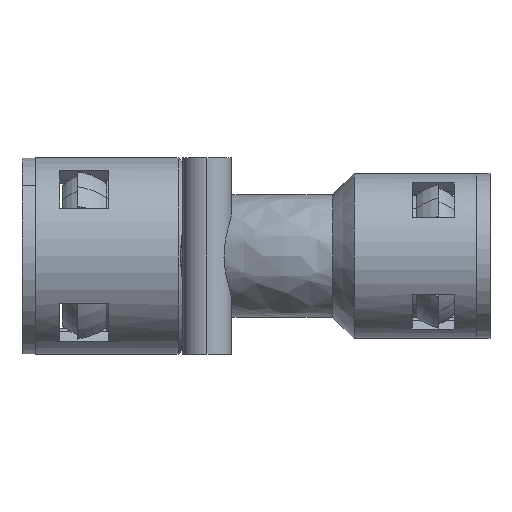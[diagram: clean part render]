
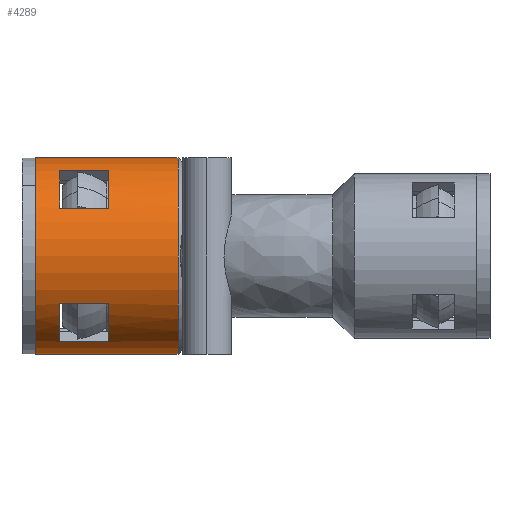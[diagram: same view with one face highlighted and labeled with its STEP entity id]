
A CAD part, left-side view. The second image highlights one B-rep face of the part: STEP entity #4289.
In plain terms, the highlighted cylindrical face has radius 22 mm (diameter 44 mm), a partial arc.
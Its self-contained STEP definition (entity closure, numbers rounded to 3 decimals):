
#4272 = EDGE_LOOP ( 'NONE', ( #4290, #4428, #4467, #4556 ) ) ;
#4274 = EDGE_CURVE ( 'NONE', #4462, #4411, #10695, .T. ) ;
#4289 = ADVANCED_FACE ( 'NONE', ( #10793, #10715, #10842 ), #10753, .T. ) ;
#4290 = ORIENTED_EDGE ( 'NONE', *, *, #4398, .F. ) ;
#4303 = VERTEX_POINT ( 'NONE', #10026 ) ;
#4377 = EDGE_CURVE ( 'NONE', #4303, #4416, #9870, .T. ) ;
#4398 = EDGE_CURVE ( 'NONE', #4303, #4462, #10218, .T. ) ;
#4399 = EDGE_CURVE ( 'NONE', #4573, #4522, #10177, .T. ) ;
#4402 = EDGE_CURVE ( 'NONE', #4524, #4614, #10272, .T. ) ;
#4411 = VERTEX_POINT ( 'NONE', #10185 ) ;
#4416 = VERTEX_POINT ( 'NONE', #10337 ) ;
#4428 = ORIENTED_EDGE ( 'NONE', *, *, #4377, .T. ) ;
#4462 = VERTEX_POINT ( 'NONE', #10396 ) ;
#4463 = EDGE_CURVE ( 'NONE', #4416, #4411, #10300, .T. ) ;
#4467 = ORIENTED_EDGE ( 'NONE', *, *, #4463, .T. ) ;
#4475 = ORIENTED_EDGE ( 'NONE', *, *, #4570, .F. ) ;
#4476 = EDGE_CURVE ( 'NONE', #4523, #4588, #10559, .T. ) ;
#4477 = EDGE_CURVE ( 'NONE', #4559, #4524, #10508, .T. ) ;
#4483 = ORIENTED_EDGE ( 'NONE', *, *, #4402, .F. ) ;
#4484 = ORIENTED_EDGE ( 'NONE', *, *, #4542, .F. ) ;
#4505 = ORIENTED_EDGE ( 'NONE', *, *, #4536, .F. ) ;
#4513 = EDGE_CURVE ( 'NONE', #4588, #4573, #10499, .T. ) ;
#4514 = ORIENTED_EDGE ( 'NONE', *, *, #4399, .F. ) ;
#4522 = VERTEX_POINT ( 'NONE', #10529 ) ;
#4523 = VERTEX_POINT ( 'NONE', #10556 ) ;
#4524 = VERTEX_POINT ( 'NONE', #10531 ) ;
#4531 = ORIENTED_EDGE ( 'NONE', *, *, #4513, .F. ) ;
#4536 = EDGE_CURVE ( 'NONE', #4598, #4559, #10292, .T. ) ;
#4542 = EDGE_CURVE ( 'NONE', #4614, #4598, #10308, .T. ) ;
#4556 = ORIENTED_EDGE ( 'NONE', *, *, #4274, .F. ) ;
#4559 = VERTEX_POINT ( 'NONE', #10580 ) ;
#4570 = EDGE_CURVE ( 'NONE', #4522, #4523, #10431, .T. ) ;
#4573 = VERTEX_POINT ( 'NONE', #11012 ) ;
#4588 = VERTEX_POINT ( 'NONE', #10991 ) ;
#4590 = ORIENTED_EDGE ( 'NONE', *, *, #4477, .F. ) ;
#4598 = VERTEX_POINT ( 'NONE', #11082 ) ;
#4599 = ORIENTED_EDGE ( 'NONE', *, *, #4476, .F. ) ;
#4608 = EDGE_LOOP ( 'NONE', ( #4590, #4505, #4484, #4483 ) ) ;
#4609 = EDGE_LOOP ( 'NONE', ( #4475, #4514, #4531, #4599 ) ) ;
#4614 = VERTEX_POINT ( 'NONE', #10998 ) ;
#9300 = DIRECTION ( 'NONE',  ( 0., 0., -1. ) ) ;
#9856 = AXIS2_PLACEMENT_3D ( 'NONE', #9928, #9927, #9300 ) ;
#9870 = CIRCLE ( 'NONE', #9856, 22. ) ;
#9927 = DIRECTION ( 'NONE',  ( 0., -1., 0. ) ) ;
#9928 = CARTESIAN_POINT ( 'NONE',  ( 0., 99., 0. ) ) ;
#10026 = CARTESIAN_POINT ( 'NONE',  ( 0., 99., 22. ) ) ;
#10173 = DIRECTION ( 'NONE',  ( 0., 0., -1. ) ) ;
#10174 = DIRECTION ( 'NONE',  ( 0., 1., 0. ) ) ;
#10177 = CIRCLE ( 'NONE', #10267, 22. ) ;
#10178 = CARTESIAN_POINT ( 'NONE',  ( 0., 82.5, 0. ) ) ;
#10185 = CARTESIAN_POINT ( 'NONE',  ( 0., 67., -22. ) ) ;
#10209 = DIRECTION ( 'NONE',  ( 0., 0., -1. ) ) ;
#10217 = CARTESIAN_POINT ( 'NONE',  ( 0., 0., 22. ) ) ;
#10218 = LINE ( 'NONE', #10217, #10264 ) ;
#10258 = AXIS2_PLACEMENT_3D ( 'NONE', #10178, #10174, #10173 ) ;
#10262 = CARTESIAN_POINT ( 'NONE',  ( 0., 82.5, 0. ) ) ;
#10263 = DIRECTION ( 'NONE',  ( 0., -1., 0. ) ) ;
#10264 = VECTOR ( 'NONE', #10263, 1000. ) ;
#10267 = AXIS2_PLACEMENT_3D ( 'NONE', #10262, #10270, #10209 ) ;
#10270 = DIRECTION ( 'NONE',  ( 0., 1., 0. ) ) ;
#10272 = CIRCLE ( 'NONE', #10258, 22. ) ;
#10289 = CARTESIAN_POINT ( 'NONE',  ( 0., 0., -22. ) ) ;
#10290 = VECTOR ( 'NONE', #10291, 1000. ) ;
#10291 = DIRECTION ( 'NONE',  ( 0., -1., 0. ) ) ;
#10292 = CIRCLE ( 'NONE', #10295, 22. ) ;
#10295 = AXIS2_PLACEMENT_3D ( 'NONE', #10297, #10299, #10301 ) ;
#10297 = CARTESIAN_POINT ( 'NONE',  ( 0., 93.5, 0. ) ) ;
#10298 = DIRECTION ( 'NONE',  ( 0., 1., 0. ) ) ;
#10299 = DIRECTION ( 'NONE',  ( 0., -1., 0. ) ) ;
#10300 = LINE ( 'NONE', #10289, #10290 ) ;
#10301 = DIRECTION ( 'NONE',  ( 0., 0., 1. ) ) ;
#10305 = CARTESIAN_POINT ( 'NONE',  ( -10.724, 0., 19.209 ) ) ;
#10308 = LINE ( 'NONE', #10305, #10309 ) ;
#10309 = VECTOR ( 'NONE', #10298, 1000. ) ;
#10337 = CARTESIAN_POINT ( 'NONE',  ( 0., 99., -22. ) ) ;
#10396 = CARTESIAN_POINT ( 'NONE',  ( 0., 67., 22. ) ) ;
#10431 = LINE ( 'NONE', #10455, #10454 ) ;
#10453 = DIRECTION ( 'NONE',  ( 0., 1., 0. ) ) ;
#10454 = VECTOR ( 'NONE', #10453, 1000. ) ;
#10455 = CARTESIAN_POINT ( 'NONE',  ( -19.209, 0., -10.724 ) ) ;
#10498 = DIRECTION ( 'NONE',  ( 0., -1., 0. ) ) ;
#10499 = LINE ( 'NONE', #10519, #10501 ) ;
#10501 = VECTOR ( 'NONE', #10570, 1000. ) ;
#10508 = LINE ( 'NONE', #10564, #10561 ) ;
#10519 = CARTESIAN_POINT ( 'NONE',  ( -10.724, 0., -19.209 ) ) ;
#10521 = CARTESIAN_POINT ( 'NONE',  ( 0., 93.5, 0. ) ) ;
#10526 = DIRECTION ( 'NONE',  ( 0., -1., 0. ) ) ;
#10529 = CARTESIAN_POINT ( 'NONE',  ( -19.209, 82.5, -10.724 ) ) ;
#10531 = CARTESIAN_POINT ( 'NONE',  ( -19.209, 82.5, 10.724 ) ) ;
#10556 = CARTESIAN_POINT ( 'NONE',  ( -19.209, 93.5, -10.724 ) ) ;
#10559 = CIRCLE ( 'NONE', #10571, 22. ) ;
#10561 = VECTOR ( 'NONE', #10526, 1000. ) ;
#10562 = DIRECTION ( 'NONE',  ( 0., 0., 1. ) ) ;
#10564 = CARTESIAN_POINT ( 'NONE',  ( -19.209, 0., 10.724 ) ) ;
#10570 = DIRECTION ( 'NONE',  ( 0., -1., 0. ) ) ;
#10571 = AXIS2_PLACEMENT_3D ( 'NONE', #10521, #10498, #10562 ) ;
#10580 = CARTESIAN_POINT ( 'NONE',  ( -19.209, 93.5, 10.724 ) ) ;
#10695 = CIRCLE ( 'NONE', #10717, 22. ) ;
#10715 = FACE_BOUND ( 'NONE', #4609, .T. ) ;
#10717 = AXIS2_PLACEMENT_3D ( 'NONE', #10862, #10861, #10860 ) ;
#10753 = CYLINDRICAL_SURFACE ( 'NONE', #10794, 22. ) ;
#10759 = DIRECTION ( 'NONE',  ( 0., -1., 0. ) ) ;
#10773 = CARTESIAN_POINT ( 'NONE',  ( 0., 0., 0. ) ) ;
#10793 = FACE_OUTER_BOUND ( 'NONE', #4272, .T. ) ;
#10794 = AXIS2_PLACEMENT_3D ( 'NONE', #10773, #10759, #10804 ) ;
#10804 = DIRECTION ( 'NONE',  ( 0., 0., -1. ) ) ;
#10842 = FACE_BOUND ( 'NONE', #4608, .T. ) ;
#10860 = DIRECTION ( 'NONE',  ( 0., 0., -1. ) ) ;
#10861 = DIRECTION ( 'NONE',  ( 0., -1., 0. ) ) ;
#10862 = CARTESIAN_POINT ( 'NONE',  ( 0., 67., 0. ) ) ;
#10991 = CARTESIAN_POINT ( 'NONE',  ( -10.724, 93.5, -19.209 ) ) ;
#10998 = CARTESIAN_POINT ( 'NONE',  ( -10.724, 82.5, 19.209 ) ) ;
#11012 = CARTESIAN_POINT ( 'NONE',  ( -10.724, 82.5, -19.209 ) ) ;
#11082 = CARTESIAN_POINT ( 'NONE',  ( -10.724, 93.5, 19.209 ) ) ;
